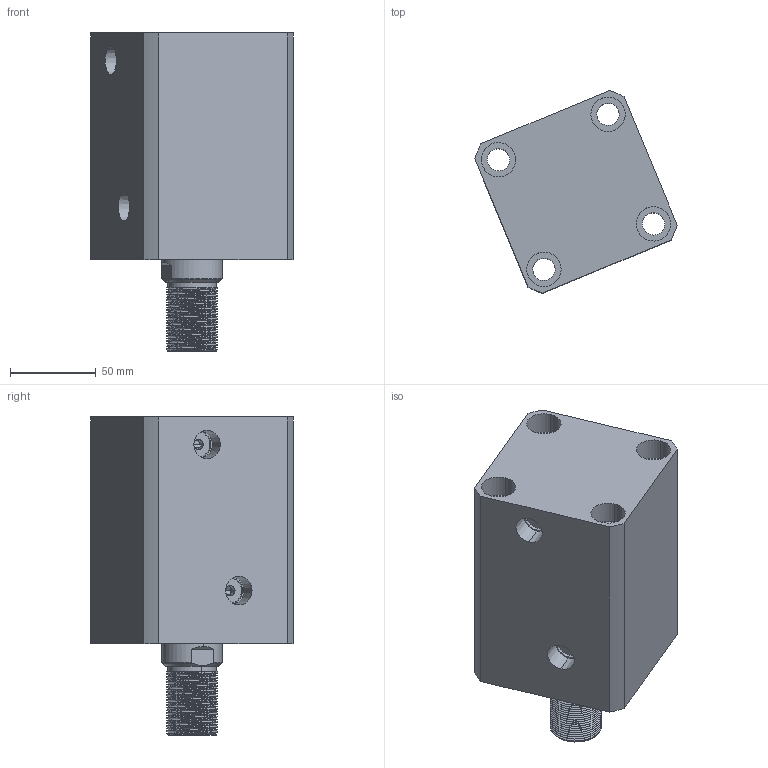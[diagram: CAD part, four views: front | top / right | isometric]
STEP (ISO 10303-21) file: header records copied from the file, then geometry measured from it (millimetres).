
FILE_DESCRIPTION (( 'STEP AP214' ), '1' );
FILE_NAME ('chtb-sd63x65w_asm.STEP', '2018-05-19T02:00:59', ( 'Windows' ), ( 'Microsoft' ), 'SwSTEP 2.0', 'SolidWorks 2015', '' );
FILE_SCHEMA (( 'AUTOMOTIVE_DESIGN' ));
Length unit declared in the file: millimetre
Products named in the file (4): CHTB63X65WHSG; CHTB63X65NBT; CHTB-63QG; chtb-sd63x65w_asm
Assembly tree (3 placements, depth 2):
  chtb-sd63x65w_asm
    CHTB-63QG
    CHTB63X65NBT
    CHTB63X65WHSG
Bounding box: 117.81 x 117.81 x 185 mm (x, y, z)
Volume: 960903.7 mm3; surface area: 161991.8 mm2
Topology: 3 solids, 3 shells, 219 faces, 625 edges, 427 vertices
Faces by surface type: cylinder 150, plane 36, bspline 14, cone 13, torus 6
Entity records: 22208 total; most frequent: CARTESIAN_POINT 16953, ORIENTED_EDGE 1242, DIRECTION 881, EDGE_CURVE 621, VERTEX_POINT 427, AXIS2_PLACEMENT_3D 346, EDGE_LOOP 252, ADVANCED_FACE 219
